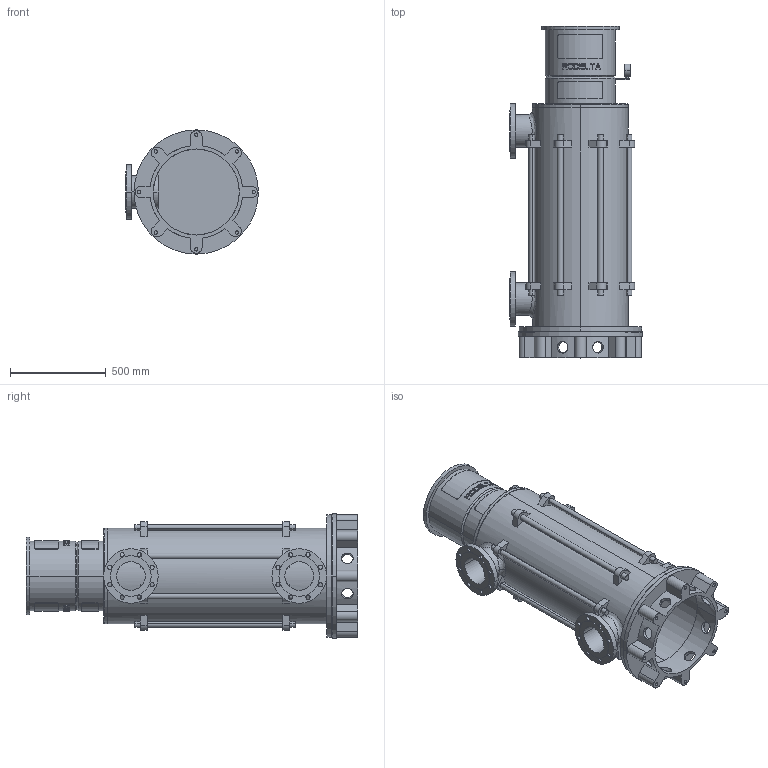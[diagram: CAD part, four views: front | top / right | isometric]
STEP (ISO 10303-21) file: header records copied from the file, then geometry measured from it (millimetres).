
FILE_DESCRIPTION((''),'2;1');
FILE_NAME('LS6_5TR_0GR_PN16_TOT_30KW','2025-10-23T15:55:54',('Lyritlocal'),(''),'CREO PARAMETRIC BY PTC INC, 2022014','CREO PARAMETRIC BY PTC INC, 2022014','');
FILE_SCHEMA(('CONFIG_CONTROL_DESIGN'));
Length unit declared in the file: millimetre
Products named in the file (1): LS6_5TR_0GR_PN16_TOT_30KW
Bounding box: 695 x 1735 x 650 mm (x, y, z)
Volume: 52530660.9 mm3; surface area: 7319932.4 mm2
Topology: 3 solids, 11 shells, 732 faces, 1889 edges, 1258 vertices
Faces by surface type: plane 438, cylinder 274, cone 12, bspline 8
Entity records: 24200 total; most frequent: CARTESIAN_POINT 6380, ORIENTED_EDGE 3746, DIRECTION 3535, EDGE_CURVE 1889, AXIS2_PLACEMENT_3D 1341, VERTEX_POINT 1258, EDGE_LOOP 895, VECTOR 853
